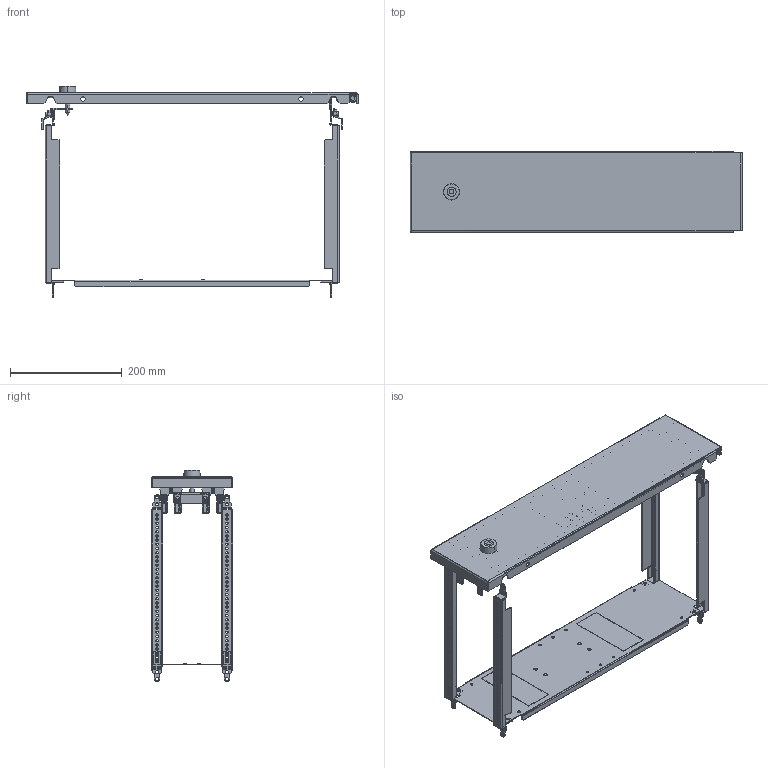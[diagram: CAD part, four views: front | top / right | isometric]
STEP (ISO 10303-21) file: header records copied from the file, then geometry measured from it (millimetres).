
FILE_DESCRIPTION(('CAx-IF Rec.Pracs.---Model Styling and Organization---1.2---2011-12-15','CAx-IF Rec.Pracs.---Geometric and Assembly Validation Properties---4.1---2014-06-16','CAx-IF Rec.Pracs.---PMI Polyline Presentation---2.0---2013-05-24'),'2;1');
FILE_NAME('R5PKEB6H61111.stp','2021-05-14T11:06:39+03:00',(''),(''),'STEP Interface 4.4 by CT CoreTechnologie','3D_Evolution4.4 by CT CoreTechnologie','');
FILE_SCHEMA(('AUTOMOTIVE_DESIGN { 1 0 10303 214 1 1 1 1 }'));
Length unit declared in the file: millimetre
Products named in the file (24): R5PKEB6H61111; R5CPMEM_R5CPMEM6150; AC00C485; M6 x 16-DIN 7991 ISR_stright; AC00C745; M6 x 16-DIN 7991 ISR_thread; MS737-1-1; MS737-1-1 stop_fixed; MS737-1-1 Z_ ªàëâ; RB.0116.00.00.2_-00; RB.0572.00.00.2 ÑÁ_-01; AC00C266-R; Ì6õ12 A5100231_straight; RB.0572.00.01.1_-01; PF 7x14 R5PKEB_0150x0600; RB.0687.00.00.1; RB.1993.00.00.0; Packet CQE 702+screws_600-150; RB.0348.00.00.0; Packet CQE 700-screws_600-150; RB.0329.00.00.0; RB.1992.00.00.0 ÑÁ_-01; M4 MGR-MKO-0420_straight; RB.1992.00.01.0_-01
Assembly tree (46 placements, depth 4):
  R5PKEB6H61111
    R5CPMEM_R5CPMEM6150
      AC00C485  x6
      M6 x 16-DIN 7991 ISR_stright  x3
      AC00C745  x2
      M6 x 16-DIN 7991 ISR_thread  x3
      MS737-1-1
        MS737-1-1 stop_fixed
        MS737-1-1 Z_ ªàëâ
      RB.0116.00.00.2_-00  x2
      RB.0572.00.00.2 ÑÁ_-01
        AC00C266-R  x2
        Ì6õ12 A5100231_straight  x3
        RB.0572.00.01.1_-01
        PF 7x14 R5PKEB_0150x0600
      RB.0687.00.00.1
    RB.1993.00.00.0
    Packet CQE 702+screws_600-150
      RB.0348.00.00.0  x4
    Packet CQE 700-screws_600-150
      RB.0329.00.00.0  x4
    RB.1992.00.00.0 ÑÁ_-01
      M4 MGR-MKO-0420_straight  x4
      RB.1992.00.01.0_-01
Bounding box: 594 x 145 x 378.9 mm (x, y, z)
Surface area: 638549 mm2 (no closed solid volume)
Topology: 0 solids, 70 shells, 2268 faces, 5853 edges, 3729 vertices
Faces by surface type: cylinder 1025, plane 927, bspline 316
Entity records: 38448 total; most frequent: CARTESIAN_POINT 11680, ORIENTED_EDGE 5330, DIRECTION 5152, EDGE_CURVE 2665, AXIS2_PLACEMENT_3D 1749, VERTEX_POINT 1725, VECTOR 1654, LINE 1654
